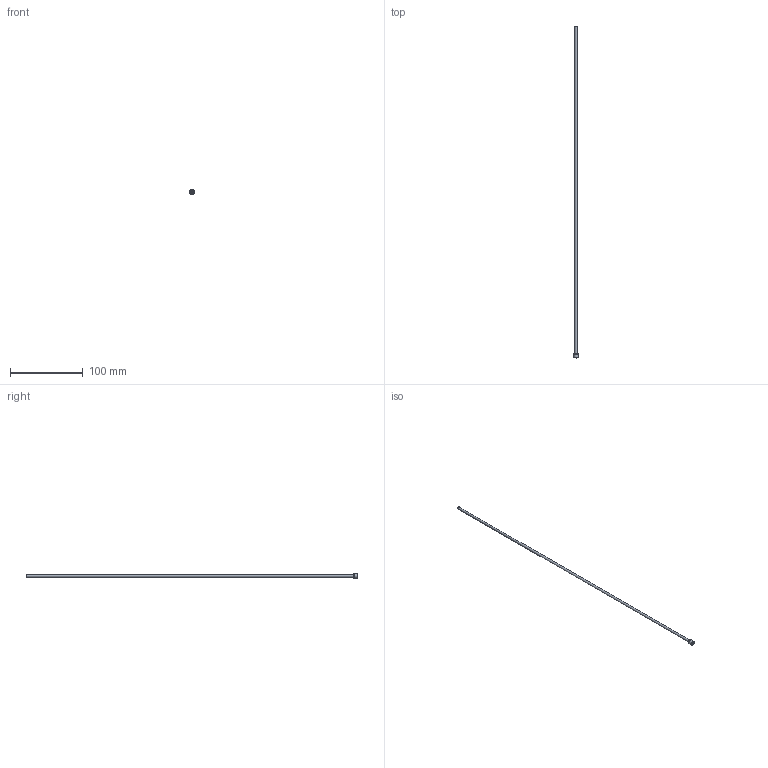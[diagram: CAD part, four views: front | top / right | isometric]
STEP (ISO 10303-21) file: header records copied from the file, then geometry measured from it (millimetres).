
FILE_DESCRIPTION(/* description */ (''),/* implementation_level */ '2;1');
FILE_NAME(/* name */ 'C:/Users/drich/Desktop/JHF125T-18 v1.step',/* time_stamp */ '2020-01-02T20:01:11-06:00',/* author */ (''),/* organization */ (''),/* preprocessor_version */ 'ST-DEVELOPER v18',/* originating_system */ 'Autodesk Translation Framework v8.12.0.6',/* authorisation */ '');
FILE_SCHEMA (('AUTOMOTIVE_DESIGN { 1 0 10303 214 3 1 1 }'));
Length unit declared in the file: inch
Products named in the file (1): JHF125T-18
Bounding box: 6.4 x 457.2 x 6.4 mm (x, y, z)
Volume: 1012.3 mm3; surface area: 8643.6 mm2
Topology: 1 solids, 1 shells, 10 faces, 24 edges, 18 vertices
Faces by surface type: cylinder 4, plane 4, cone 1, torus 1
Full cylindrical faces by diameter (mm): 2.769 x1, 3.175 x1, 6.269 x1, 6.401 x1
Entity records: 354 total; most frequent: DIRECTION 65, CARTESIAN_POINT 53, ORIENTED_EDGE 48, AXIS2_PLACEMENT_3D 30, EDGE_CURVE 24, CIRCLE 19, VERTEX_POINT 18, EDGE_LOOP 14
